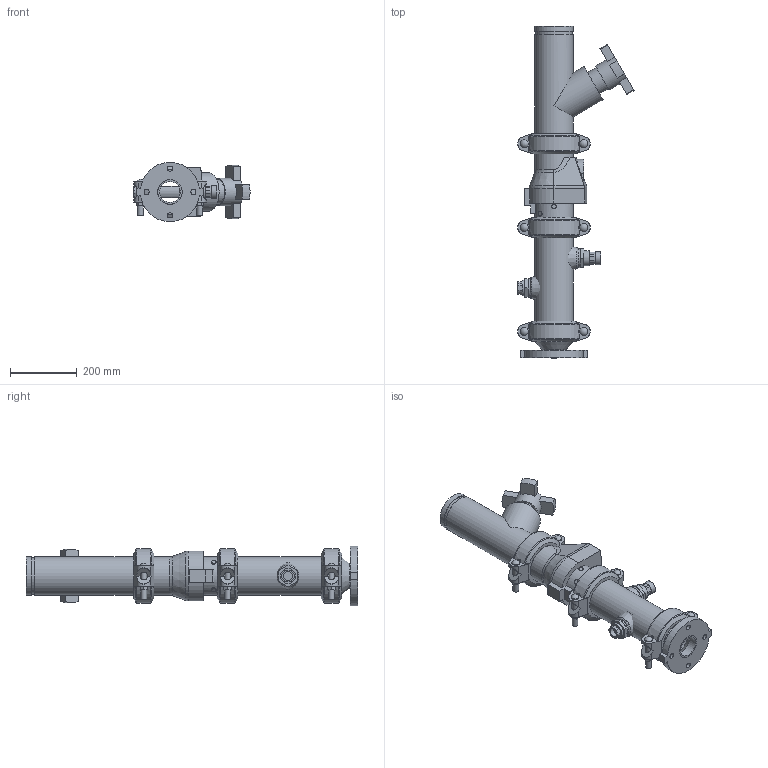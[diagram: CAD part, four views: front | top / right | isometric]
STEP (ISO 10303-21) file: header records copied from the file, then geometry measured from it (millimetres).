
FILE_DESCRIPTION(/* description */ ('VIC DVI PUMP DROP VERT S/383 (OGSxFLG) (S/924-0.75)','CAx-IF Rec.Pracs.---Representation and Presentation of Product Manufacturing Information (PMI)---4.0---2014-10-13'),/* implementation_level */ '2;1');
FILE_NAME(/* name */ 'C:\Users\Public\Documents\Victaulic.Temp\A849\Victaulic_IPS_Vertical DVI_CL 150_Series 383 (OGSxFLG)_924 (0.75)_04.0x02.5 (100x65).stp',/* time_stamp */ '2022-07-25T11:38:47+02:00',/* author */ ('Vjadhav'),/* organization */ ('Victaulic'),/* preprocessor_version */ 'ST-DEVELOPER v18',/* originating_system */ 'Autodesk Inventor 2020',/* authorisation */ '');
FILE_SCHEMA (('AP242_MANAGED_MODEL_BASED_3D_ENGINEERING_MIM_LF { 1 0 10303 442 1 1 4 }'));
Length unit declared in the file: inch
Products named in the file (9): 383_924 (0.75)-04.0x02.5; 741-02.5; 050-04.0x02.5; Pipe-04.0; 177N-04.0; 789-04.0; 779-04.0; 924-04.0x0.75; 923-04.0x0.75
Assembly tree (10 placements, depth 2):
  383_924 (0.75)-04.0x02.5
    741-02.5
    050-04.0x02.5
    177N-04.0  x3
    Pipe-04.0
    789-04.0
    779-04.0
    924-04.0x0.75
    923-04.0x0.75
Bounding box: 347.73 x 993.9 x 177.16 mm (x, y, z)
Volume: 7532006.7 mm3; surface area: 1236367.6 mm2
Topology: 10 solids, 10 shells, 533 faces, 1430 edges, 954 vertices
Faces by surface type: plane 311, cylinder 177, cone 19, torus 18, sphere 6, bspline 2
Full cylindrical faces by diameter (mm): 13.716 x2, 15.875 x4, 17.424 x6, 23.495 x6, 26.67 x2, 38.608 x1, 45.974 x4, 55.626 x2, 62.713 x1, 69.088 x1, 72.39 x1, 73.025 x3, 82.55 x1, 101.6 x3, 102.26 x4, 110.084 x7, 114.3 x19
Entity records: 12053 total; most frequent: CARTESIAN_POINT 2438, DIRECTION 1979, ORIENTED_EDGE 1808, EDGE_CURVE 904, AXIS2_PLACEMENT_3D 753, VERTEX_POINT 610, LINE 473, VECTOR 473
